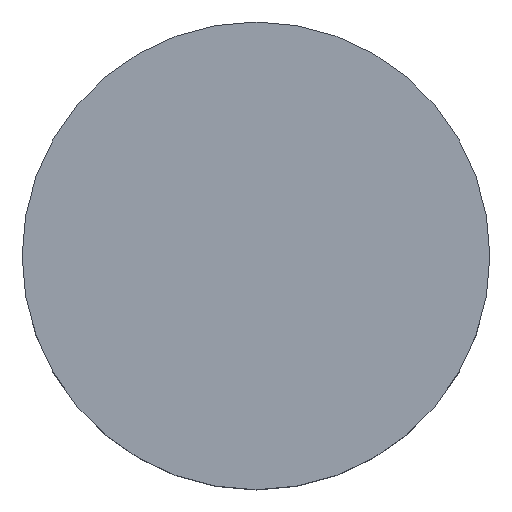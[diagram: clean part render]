
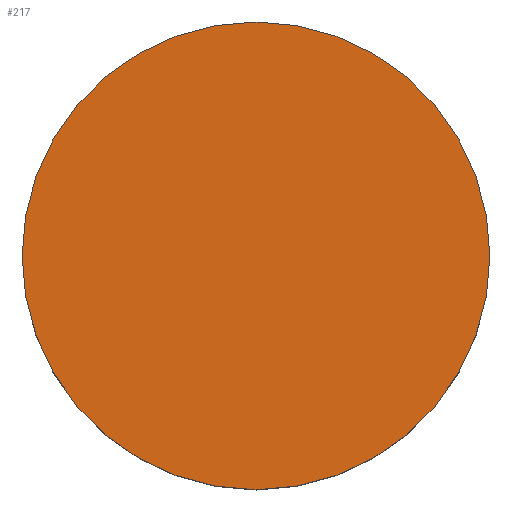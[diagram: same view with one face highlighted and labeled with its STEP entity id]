
A CAD part, top view. The second image highlights one B-rep face of the part: STEP entity #217.
In plain terms, the highlighted planar face has unit normal (0, 0, 1).
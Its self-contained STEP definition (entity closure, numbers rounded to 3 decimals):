
#217=ADVANCED_FACE('',(#281),#266,.T.);
#266=PLANE('',#798);
#281=FACE_OUTER_BOUND('',#317,.T.);
#317=EDGE_LOOP('',(#379,#380));
#379=ORIENTED_EDGE('',*,*,#633,.F.);
#380=ORIENTED_EDGE('',*,*,#634,.F.);
#571=VERTEX_POINT('',#1175);
#572=VERTEX_POINT('',#1176);
#633=EDGE_CURVE('',#571,#572,#729,.T.);
#634=EDGE_CURVE('',#572,#571,#730,.T.);
#729=CIRCLE('',#796,8.);
#730=CIRCLE('',#797,8.);
#796=AXIS2_PLACEMENT_3D('',#1174,#913,#914);
#797=AXIS2_PLACEMENT_3D('',#1177,#915,#916);
#798=AXIS2_PLACEMENT_3D('',#1178,#917,#918);
#913=DIRECTION('',(0.,0.,-1.));
#914=DIRECTION('',(0.,1.,0.));
#915=DIRECTION('',(0.,0.,-1.));
#916=DIRECTION('',(0.,-1.,0.));
#917=DIRECTION('',(0.,0.,1.));
#918=DIRECTION('',(0.,-1.,0.));
#1174=CARTESIAN_POINT('',(0.,0.,5.));
#1175=CARTESIAN_POINT('',(8.,0.,5.));
#1176=CARTESIAN_POINT('',(-8.,0.,5.));
#1177=CARTESIAN_POINT('',(0.,0.,5.));
#1178=CARTESIAN_POINT('',(0.,0.,5.));
